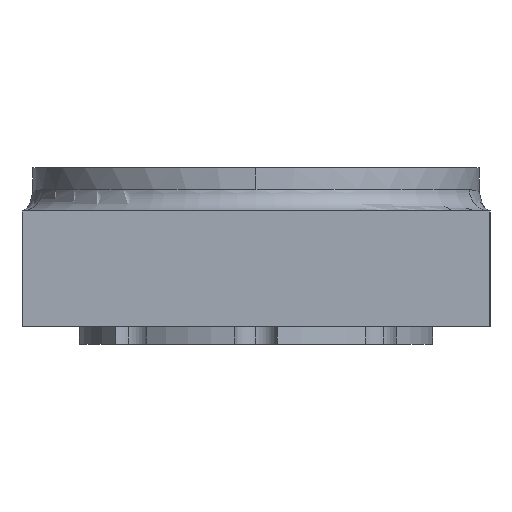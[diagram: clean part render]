
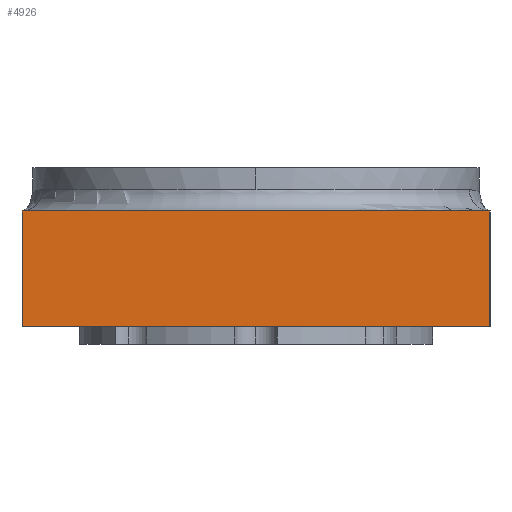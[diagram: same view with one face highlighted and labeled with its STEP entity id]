
A CAD part, left-side view. The second image highlights one B-rep face of the part: STEP entity #4926.
In plain terms, the highlighted planar face has unit normal (-1, 0, 0).
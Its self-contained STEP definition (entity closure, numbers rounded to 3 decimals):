
#67 = CARTESIAN_POINT ( 'NONE',  ( -80., -65., 0. ) ) ;
#325 = EDGE_LOOP ( 'NONE', ( #899, #1796, #3413, #3139 ) ) ;
#332 = CARTESIAN_POINT ( 'NONE',  ( -80., -65., 0. ) ) ;
#339 = DIRECTION ( 'NONE',  ( 1., 0., 0. ) ) ;
#360 = DIRECTION ( 'NONE',  ( 0., 1., 0. ) ) ;
#498 = LINE ( 'NONE', #67, #2875 ) ;
#501 = CARTESIAN_POINT ( 'NONE',  ( -80., 65., 32. ) ) ;
#618 = VECTOR ( 'NONE', #2352, 1000. ) ;
#636 = VECTOR ( 'NONE', #2719, 1000. ) ;
#664 = LINE ( 'NONE', #2257, #4841 ) ;
#759 = VERTEX_POINT ( 'NONE', #332 ) ;
#899 = ORIENTED_EDGE ( 'NONE', *, *, #1472, .T. ) ;
#1472 = EDGE_CURVE ( 'NONE', #3739, #3914, #3898, .T. ) ;
#1796 = ORIENTED_EDGE ( 'NONE', *, *, #2947, .F. ) ;
#1857 = EDGE_CURVE ( 'NONE', #759, #3739, #498, .T. ) ;
#2029 = FACE_OUTER_BOUND ( 'NONE', #325, .T. ) ;
#2257 = CARTESIAN_POINT ( 'NONE',  ( -80., -65., 0. ) ) ;
#2314 = CARTESIAN_POINT ( 'NONE',  ( -80., -65., 32. ) ) ;
#2352 = DIRECTION ( 'NONE',  ( 0., 0., 1. ) ) ;
#2590 = DIRECTION ( 'NONE',  ( 0., 1., 0. ) ) ;
#2708 = EDGE_CURVE ( 'NONE', #759, #4732, #664, .T. ) ;
#2719 = DIRECTION ( 'NONE',  ( 0., 1., 0. ) ) ;
#2875 = VECTOR ( 'NONE', #4840, 1000. ) ;
#2947 = EDGE_CURVE ( 'NONE', #4732, #3914, #4707, .T. ) ;
#3139 = ORIENTED_EDGE ( 'NONE', *, *, #1857, .T. ) ;
#3413 = ORIENTED_EDGE ( 'NONE', *, *, #2708, .F. ) ;
#3739 = VERTEX_POINT ( 'NONE', #5106 ) ;
#3898 = LINE ( 'NONE', #2314, #636 ) ;
#3913 = CARTESIAN_POINT ( 'NONE',  ( -80., -65., 0. ) ) ;
#3914 = VERTEX_POINT ( 'NONE', #501 ) ;
#3956 = PLANE ( 'NONE',  #4806 ) ;
#4324 = CARTESIAN_POINT ( 'NONE',  ( -80., 65., 0. ) ) ;
#4412 = CARTESIAN_POINT ( 'NONE',  ( -80., 65., 0. ) ) ;
#4707 = LINE ( 'NONE', #4324, #618 ) ;
#4732 = VERTEX_POINT ( 'NONE', #4412 ) ;
#4806 = AXIS2_PLACEMENT_3D ( 'NONE', #3913, #339, #360 ) ;
#4840 = DIRECTION ( 'NONE',  ( 0., 0., 1. ) ) ;
#4841 = VECTOR ( 'NONE', #2590, 1000. ) ;
#4926 = ADVANCED_FACE ( 'NONE', ( #2029 ), #3956, .F. ) ;
#5106 = CARTESIAN_POINT ( 'NONE',  ( -80., -65., 32. ) ) ;
